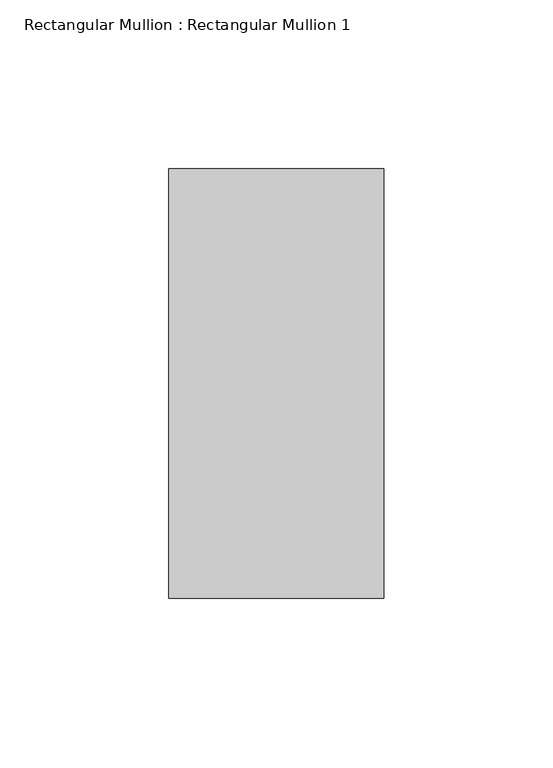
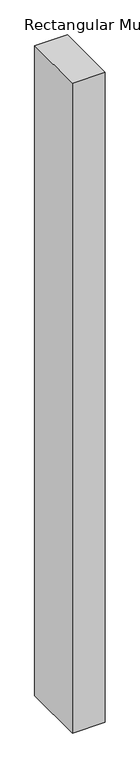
"""IFC4 building model written with IfcOpenShell, lengths in millimetres: member geometry, Rectangular Mullion : Rectangular Mullion 1."""

from ifc_helpers import new_model, si_unit, frame, origin, place, context, project, spatial, polyline, outline, extrude, source, transform, mapped, element, save


def rectangular_mullion_rectangular_mullion_1_bf3e4f7e(model_context):
    return source(origin(), model_context, "Body", "SweptSolid", [
        extrude(outline(polyline([(0.0, 63.5), (0.0, -63.5), (-63.5, -63.5), (-63.5, 63.5), (0.0, 63.5)])), frame((0.0, 0.0, -1338.0833334), z_axis=(0.0, 0.0, 1.0), x_axis=(1.0, 0.0, 0.0)), (0.0, 0.0, 1.0), 1338.0833334),
    ])


if __name__ == "__main__":
    model = new_model("IFC4")
    model_context = context("Model", 3, world=origin())
    ifc_project = project(units=[si_unit("LENGTHUNIT", "METRE", prefix="MILLI")], contexts=[model_context])
    site = spatial("IfcSite", under=ifc_project)
    building = spatial("IfcBuilding", under=site)
    placement = place(None, origin())
    rectangular_mullion_rectangular_mullion_1_shape = rectangular_mullion_rectangular_mullion_1_bf3e4f7e(model_context)
    element("IfcMember", 1, ObjectType="Rectangular Mullion : Rectangular Mullion 1", at=placement, inside=building, context=model_context, shape_type="MappedRepresentation", body=[
        mapped(rectangular_mullion_rectangular_mullion_1_shape, transform((0.0, 0.0, 0.0), x_axis=(1.0, 0.0, 0.0), y_axis=(0.0, 1.0, 0.0), z_axis=(0.0, 0.0, 1.0))),
    ])
    save(model, "model.ifc")
